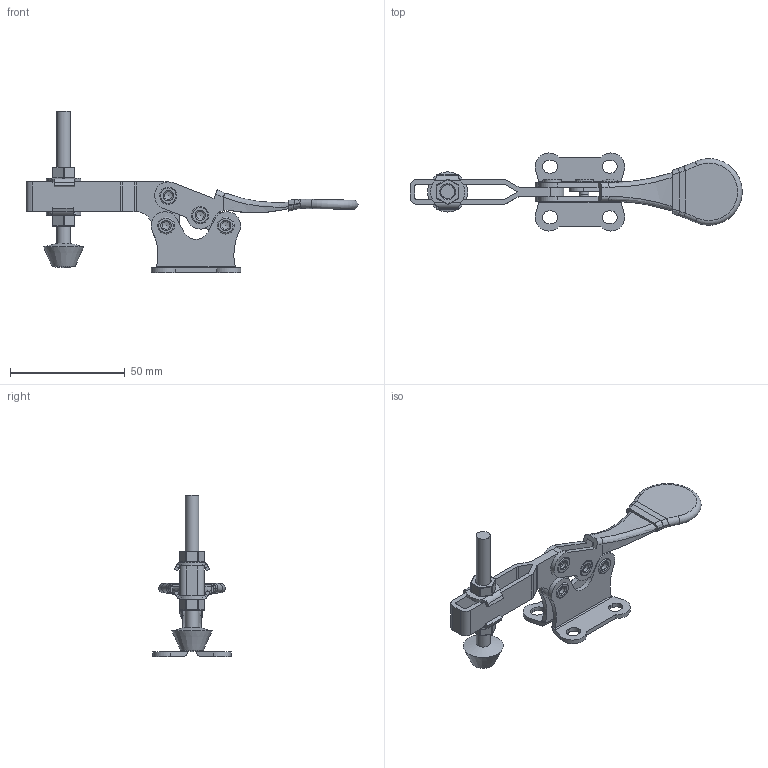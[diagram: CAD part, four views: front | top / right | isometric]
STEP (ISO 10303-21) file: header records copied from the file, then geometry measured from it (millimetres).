
FILE_DESCRIPTION(/* description */ (''),/* implementation_level */ '2;1');
FILE_NAME(/* name */ '\\NAS\db20\009-21F\DR_009-21F.stp',/* time_stamp */ '2018-03-02T14:43:26+09:00',/* author */ ('user'),/* organization */ (''),/* preprocessor_version */ 'ST-DEVELOPER v15.6',/* originating_system */ 'Autodesk Inventor 2015',/* authorisation */ '');
FILE_SCHEMA (('AUTOMOTIVE_DESIGN { 1 0 10303 214 3 1 1 }'));
Length unit declared in the file: millimetre
Products named in the file (9): DR_009-21F-B; DR_009-21F-BR; DR_009-21F-C; DR_009-21F-H; DR_NUT-M6; DR_TCB6-W; DR_TCB-M6; DR_009-21F
Bounding box: 144.6 x 34 x 70.2 mm (x, y, z)
Volume: 19040.4 mm3; surface area: 21278.9 mm2
Topology: 10 solids, 10 shells, 346 faces, 844 edges, 528 vertices
Faces by surface type: cylinder 146, plane 118, torus 37, bspline 33, cone 10, sphere 2
Full cylindrical faces by diameter (mm): 3.5 x4, 4 x8, 6 x3, 6.3 x2, 7.8 x2, 7.9 x2
Entity records: 9600 total; most frequent: CARTESIAN_POINT 2950, DIRECTION 1355, ORIENTED_EDGE 1288, EDGE_CURVE 644, AXIS2_PLACEMENT_3D 535, VERTEX_POINT 429, EDGE_LOOP 351, LINE 285
